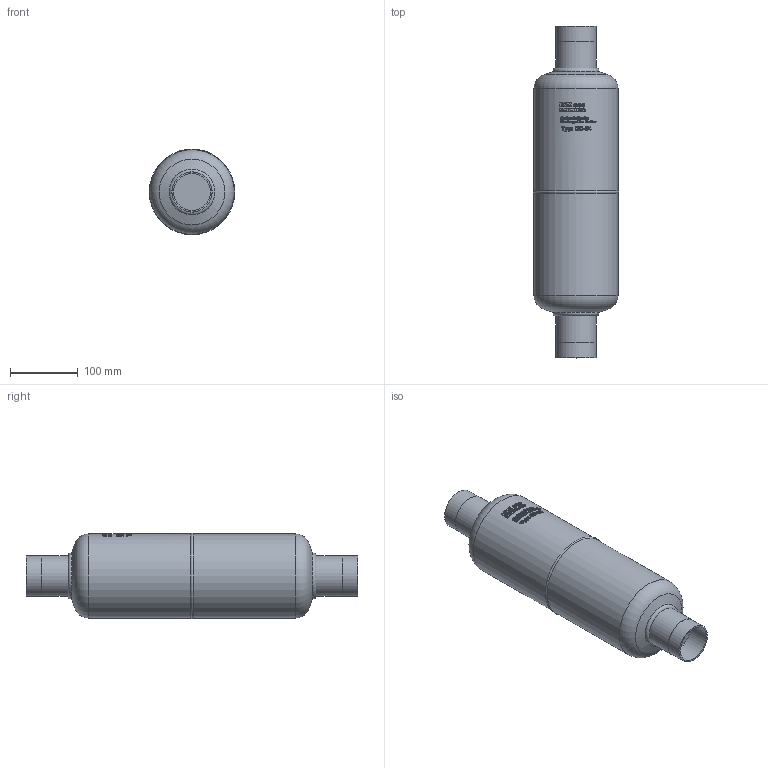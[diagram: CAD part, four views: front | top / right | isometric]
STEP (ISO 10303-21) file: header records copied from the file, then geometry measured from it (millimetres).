
FILE_DESCRIPTION(/* description */ (''),/* implementation_level */ '2;1');
FILE_NAME(/* name */ 'P:\GD\GD-54\GD-54.stp',/* time_stamp */ '2017-10-05T08:27:58+02:00',/* author */ ('neufeld'),/* organization */ (''),/* preprocessor_version */ 'ST-DEVELOPER v16.1',/* originating_system */ 'Autodesk Inventor 2016',/* authorisation */ '');
FILE_SCHEMA (('AUTOMOTIVE_DESIGN { 1 0 10303 214 3 1 1 }'));
Length unit declared in the file: millimetre
Products named in the file (2): GD-54; GD-54_1
Assembly tree (1 placements, depth 2):
  GD-54_1
    GD-54
Bounding box: 125.93 x 489.27 x 125.97 mm (x, y, z)
Volume: 4390167.5 mm3; surface area: 189591.7 mm2
Topology: 1 solids, 1 shells, 1020 faces, 2790 edges, 1857 vertices
Faces by surface type: plane 564, bspline 358, cylinder 89, torus 5, cone 2, sphere 2
Full cylindrical faces by diameter (mm): 54.3 x2, 59 x2, 59.5 x2, 124 x2
Entity records: 39644 total; most frequent: CARTESIAN_POINT 15543, ORIENTED_EDGE 5548, DIRECTION 4106, EDGE_CURVE 2774, VERTEX_POINT 1856, AXIS2_PLACEMENT_3D 1383, LINE 1340, VECTOR 1340
